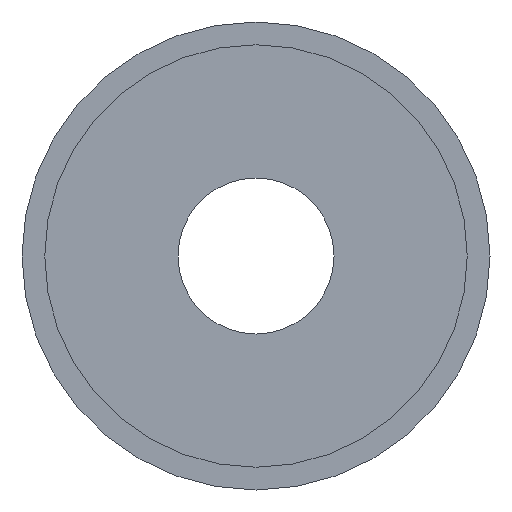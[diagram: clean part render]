
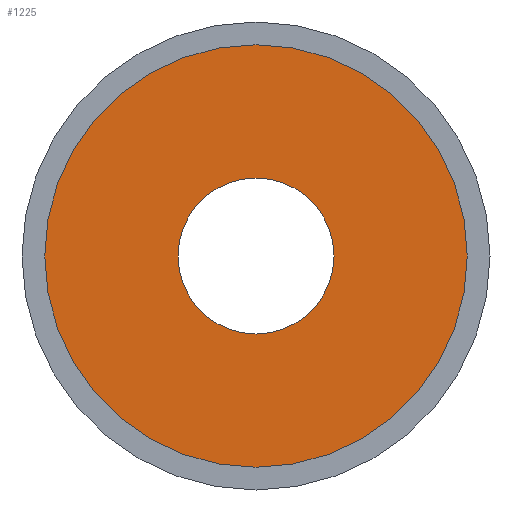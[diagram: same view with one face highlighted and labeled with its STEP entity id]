
A CAD part, front view. The second image highlights one B-rep face of the part: STEP entity #1225.
In plain terms, the highlighted planar face has unit normal (0, -1, 0).
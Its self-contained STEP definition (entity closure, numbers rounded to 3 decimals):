
#27 = ORIENTED_EDGE ( 'NONE', *, *, #2428, .F. ) ;
#59 = CARTESIAN_POINT ( 'NONE',  ( 0., -15., 0. ) ) ;
#85 = DIRECTION ( 'NONE',  ( 0., 0., -1. ) ) ;
#97 = DIRECTION ( 'NONE',  ( 0., 0., -1. ) ) ;
#133 = EDGE_CURVE ( 'NONE', #1328, #1167, #304, .T. ) ;
#167 = AXIS2_PLACEMENT_3D ( 'NONE', #1222, #2022, #845 ) ;
#252 = DIRECTION ( 'NONE',  ( 0., 0., 1. ) ) ;
#287 = AXIS2_PLACEMENT_3D ( 'NONE', #2378, #1253, #97 ) ;
#304 = CIRCLE ( 'NONE', #1440, 32.5 ) ;
#318 = CARTESIAN_POINT ( 'NONE',  ( 0., -15., 12. ) ) ;
#332 = CIRCLE ( 'NONE', #167, 32.5 ) ;
#438 = DIRECTION ( 'NONE',  ( 0., 1., 0. ) ) ;
#466 = CARTESIAN_POINT ( 'NONE',  ( 0., -15., -12. ) ) ;
#468 = DIRECTION ( 'NONE',  ( 0., -1., 0. ) ) ;
#684 = CARTESIAN_POINT ( 'NONE',  ( 0., -15., 32.5 ) ) ;
#718 = EDGE_CURVE ( 'NONE', #892, #734, #1772, .T. ) ;
#734 = VERTEX_POINT ( 'NONE', #466 ) ;
#761 = EDGE_CURVE ( 'NONE', #1167, #1328, #332, .T. ) ;
#845 = DIRECTION ( 'NONE',  ( 0., 0., -1. ) ) ;
#866 = FACE_BOUND ( 'NONE', #1779, .T. ) ;
#892 = VERTEX_POINT ( 'NONE', #318 ) ;
#1034 = CARTESIAN_POINT ( 'NONE',  ( 0., -15., -32.5 ) ) ;
#1167 = VERTEX_POINT ( 'NONE', #1034 ) ;
#1222 = CARTESIAN_POINT ( 'NONE',  ( 0., -15., 0. ) ) ;
#1225 = ADVANCED_FACE ( 'NONE', ( #866, #1970 ), #2166, .F. ) ;
#1240 = DIRECTION ( 'NONE',  ( 0., 0., -1. ) ) ;
#1253 = DIRECTION ( 'NONE',  ( 0., -1., 0. ) ) ;
#1276 = AXIS2_PLACEMENT_3D ( 'NONE', #1417, #438, #252 ) ;
#1328 = VERTEX_POINT ( 'NONE', #684 ) ;
#1417 = CARTESIAN_POINT ( 'NONE',  ( 0., -15., 12. ) ) ;
#1440 = AXIS2_PLACEMENT_3D ( 'NONE', #59, #468, #1240 ) ;
#1536 = ORIENTED_EDGE ( 'NONE', *, *, #761, .T. ) ;
#1772 = CIRCLE ( 'NONE', #1965, 12. ) ;
#1779 = EDGE_LOOP ( 'NONE', ( #27, #2217 ) ) ;
#1808 = DIRECTION ( 'NONE',  ( 0., -1., 0. ) ) ;
#1965 = AXIS2_PLACEMENT_3D ( 'NONE', #1993, #1808, #85 ) ;
#1970 = FACE_OUTER_BOUND ( 'NONE', #2115, .T. ) ;
#1993 = CARTESIAN_POINT ( 'NONE',  ( 0., -15., 0. ) ) ;
#2022 = DIRECTION ( 'NONE',  ( 0., -1., 0. ) ) ;
#2115 = EDGE_LOOP ( 'NONE', ( #1536, #2223 ) ) ;
#2166 = PLANE ( 'NONE',  #1276 ) ;
#2217 = ORIENTED_EDGE ( 'NONE', *, *, #718, .F. ) ;
#2223 = ORIENTED_EDGE ( 'NONE', *, *, #133, .T. ) ;
#2368 = CIRCLE ( 'NONE', #287, 12. ) ;
#2378 = CARTESIAN_POINT ( 'NONE',  ( 0., -15., 0. ) ) ;
#2428 = EDGE_CURVE ( 'NONE', #734, #892, #2368, .T. ) ;
